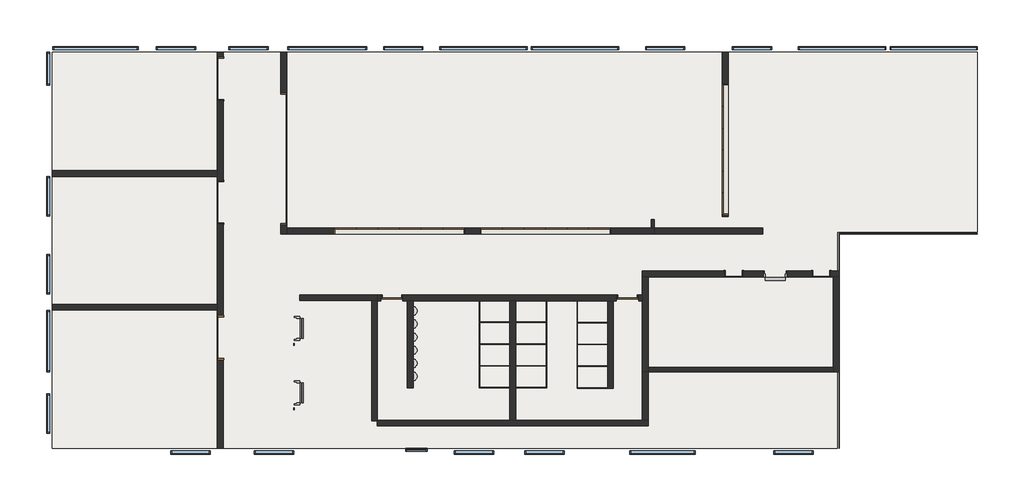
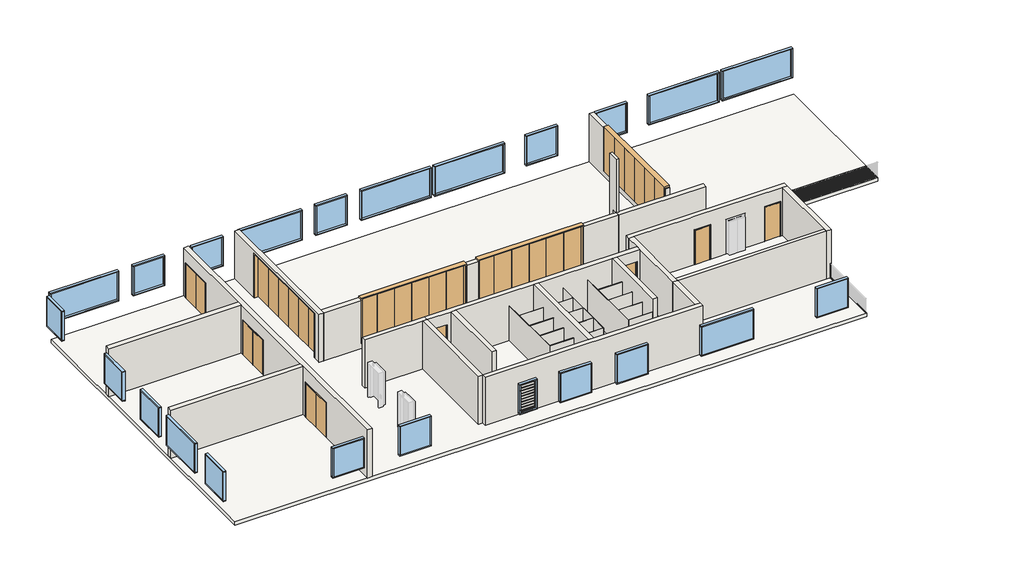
# One storey, part 1 of 2: 35 walls, 23 windows, 11 doors, 1 slab.
"""IFC4 building model written with IfcOpenShell, lengths in millimetres."""

from ifc_helpers import new_model, si_unit, frame, origin, place, context, project, spatial, polyline, outline, extrude, faceted_brep, transform, mapped, element, save
from components import bi_fold_dor_6_panel_6000_81c243c2, bi_fold_dor_6_panel_6000_958885f1, swing_double_metal_frame_double_2040_x_970x2_2b0cb67a, swing_metal_frame_single_dor_e555ebe5, swing_metal_frame_single_dor_ce4810a8, swing_metal_frame_single_dor_0861dc3d, window_fixed_1500mm_wide_9b338267, window_fixed_1800mm_wide_7e584eee, window_fixed_2800mm_wide_467ea3d1, window_fixed_3000mm_wide_e2b4e5f3, window_fixed_3600mm_wide_8deb48f9, window_fixed_3900_wide_c72f7c03, window_fixed_4000m_wide_275cc457, window_louvre_window_louvre_92f3ddc7

model = new_model("IFC4")

# Units and contexts
model_context = context("Model", 3, world=origin())
ifc_project = project(units=[si_unit("LENGTHUNIT", "METRE", prefix="MILLI")], contexts=[model_context])

# Site, building, storey
site = spatial("IfcSite", under=ifc_project)
building = spatial("IfcBuilding", under=site)
storey = spatial("IfcBuildingStorey", under=building, Name="1階", Elevation=29900.0)

# Doors
placement = place(None, origin())
bi_fold_dor_6_panel_6000_shape = bi_fold_dor_6_panel_6000_81c243c2(model_context)
element("IfcDoor", 1, ObjectType="Bi Fold_DOR : 6 Panel - 6000", at=placement, inside=storey, context=model_context, shape_type="MappedRepresentation", body=[
    mapped(bi_fold_dor_6_panel_6000_shape, transform((25206.7619997, 10265.005792, 30200.0), x_axis=(1.0, 0.0, 0.0), y_axis=(0.0, 1.0, 0.0), z_axis=(0.0, 0.0, 1.0))),
])
element("IfcDoor", 2, ObjectType="Bi Fold_DOR : 6 Panel - 6000", at=placement, inside=storey, context=model_context, shape_type="MappedRepresentation", body=[
    mapped(bi_fold_dor_6_panel_6000_shape, transform((33426.7619997, 13995.0213727, 30200.0), x_axis=(0.0, 1.0, 0.0), y_axis=(-1.0, 0.0, 0.0), z_axis=(0.0, 0.0, 1.0))),
])
bi_fold_dor_6_panel_6000_2_shape = bi_fold_dor_6_panel_6000_958885f1(model_context)
element("IfcDoor", 3, ObjectType="Bi Fold_DOR : 6 Panel - 6000", at=placement, inside=storey, context=model_context, shape_type="MappedRepresentation", body=[
    mapped(bi_fold_dor_6_panel_6000_2_shape, transform((18514.6062665, 10265.005792, 30200.0), x_axis=(-1.0, 0.0, 0.0), y_axis=(0.0, -1.0, 0.0), z_axis=(0.0, 0.0, 1.0))),
])
element("IfcDoor", 4, ObjectType="Bi Fold_DOR : 6 Panel - 6000", at=placement, inside=storey, context=model_context, shape_type="MappedRepresentation", body=[
    mapped(bi_fold_dor_6_panel_6000_2_shape, transform((13232.1904782, 13565.005792, 29900.0), x_axis=(0.0, 1.0, 0.0), y_axis=(-1.0, 0.0, 0.0), z_axis=(0.0, 0.0, 1.0))),
])
swing_double_metal_frame_double_2040_x_970x2_shape = swing_double_metal_frame_double_2040_x_970x2_2b0cb67a(model_context)
element("IfcDoor", 5, ObjectType="Swing_Double : Metal Frame Double - 2040 x 970x2", at=placement, inside=storey, context=model_context, shape_type="MappedRepresentation", body=[
    mapped(swing_double_metal_frame_double_2040_x_970x2_shape, transform((10319.6062665, 17444.0106864, 29900.0), x_axis=(0.0, 1.0, 0.0), y_axis=(-1.0, 0.0, 0.0), z_axis=(0.0, 0.0, 1.0))),
])
element("IfcDoor", 6, ObjectType="Swing_Double : Metal Frame Double - 2040 x 970x2", at=placement, inside=storey, context=model_context, shape_type="MappedRepresentation", body=[
    mapped(swing_double_metal_frame_double_2040_x_970x2_shape, transform((10319.6062665, 11781.5, 29900.0), x_axis=(0.0, 1.0, 0.0), y_axis=(-1.0, 0.0, 0.0), z_axis=(0.0, 0.0, 1.0))),
])
element("IfcDoor", 7, ObjectType="Swing_Double : Metal Frame Double - 2040 x 970x2", at=placement, inside=storey, context=model_context, shape_type="MappedRepresentation", body=[
    mapped(swing_double_metal_frame_double_2040_x_970x2_shape, transform((10319.6062665, 5585.5898177, 29900.0), x_axis=(0.0, 1.0, 0.0), y_axis=(-1.0, 0.0, 0.0), z_axis=(0.0, 0.0, 1.0))),
])
swing_metal_frame_single_dor_shape = swing_metal_frame_single_dor_e555ebe5(model_context)
element("IfcDoor", 8, ObjectType="Swing_Metal Frame_Single_DOR : 2040h x 820 (2110x920 STUD)", at=placement, inside=storey, context=model_context, shape_type="MappedRepresentation", body=[
    mapped(swing_metal_frame_single_dor_shape, transform((33812.4654784, 8295.005792, 29900.0), x_axis=(-1.0, 0.0, 0.0), y_axis=(0.0, -1.0, 0.0), z_axis=(0.0, 0.0, 1.0))),
])
element("IfcDoor", 9, ObjectType="Swing_Metal Frame_Single_DOR : 2040h x 820 (2110x920 STUD)", at=placement, inside=storey, context=model_context, shape_type="MappedRepresentation", body=[
    mapped(swing_metal_frame_single_dor_shape, transform((37812.4654784, 8295.005792, 29900.0), x_axis=(-1.0, 0.0, 0.0), y_axis=(0.0, -1.0, 0.0), z_axis=(0.0, 0.0, 1.0))),
])
swing_metal_frame_single_dor_2_shape = swing_metal_frame_single_dor_ce4810a8(model_context)
element("IfcDoor", 10, ObjectType="Swing_Metal Frame_Single_DOR : 2140h x 920 (2210x1010 BLK)", at=placement, inside=storey, context=model_context, shape_type="MappedRepresentation", body=[
    mapped(swing_metal_frame_single_dor_2_shape, transform((28957.1585166, 7200.0, 29900.0), x_axis=(-1.0, 0.0, 0.0), y_axis=(0.0, -1.0, 0.0), z_axis=(0.0, 0.0, 1.0))),
])
swing_metal_frame_single_dor_3_shape = swing_metal_frame_single_dor_0861dc3d(model_context)
element("IfcDoor", 11, ObjectType="Swing_Metal Frame_Single_DOR : 2140h x 920 (2210x1010 BLK)", at=placement, inside=storey, context=model_context, shape_type="MappedRepresentation", body=[
    mapped(swing_metal_frame_single_dor_3_shape, transform((18169.6062665, 7200.0, 29900.0), x_axis=(1.0, 0.0, 0.0), y_axis=(0.0, 1.0, 0.0), z_axis=(0.0, 0.0, 1.0))),
])

# Slab
element("IfcSlab", 12, ObjectType="Concept Floor_200mm", at=placement, inside=storey, context=model_context, shape_type="SweptSolid", body=[
    extrude(outline(polyline([(44965.0, 18440.0), (44965.0, 10130.005792), (38647.4654784, 10130.005792), (38647.4654784, 309.0898177), (2639.6057353, 309.0898177), (2639.6057353, 18440.0), (44965.0, 18440.0)])), frame((0.0, 0.0, 29700.0), z_axis=(0.0, 0.0, 1.0), x_axis=(1.0, 0.0, 0.0)), (0.0, 0.0, 1.0), 200.0),
])

# Walls
element("IfcWall", 13, ObjectType="Brickwork_Double_270mm", at=placement, inside=storey, context=model_context, shape_type="SweptSolid", body=[
    extrude(outline(polyline([(35151.7619997, 10130.005792), (30187.1585166, 10130.005792), (30187.1585166, 10400.005792), (35151.7619997, 10400.005792), (35151.7619997, 10130.005792)])), frame((0.0, 0.0, 29900.0), z_axis=(0.0, 0.0, 1.0), x_axis=(1.0, 0.0, 0.0)), (0.0, 0.0, 1.0), 2900.0),
])
element("IfcWall", 14, ObjectType="Brickwork_Double_270mm", at=placement, inside=storey, context=model_context, shape_type="Brep", body=[
    faceted_brep([(29622.1585166, 8430.005792, 32800.0), (38647.4654784, 8430.005792, 32800.0), (38647.4654784, 8430.005792, 29900.0), (38252.4654784, 8430.005792, 29900.0), (38252.4654784, 8430.005792, 31990.0), (37372.4654784, 8430.005792, 31990.0), (37372.4654784, 8430.005792, 29900.0), (36262.4654784, 8430.005792, 29900.0), (36262.4654784, 8430.005792, 32000.0), (35162.4654784, 8430.005792, 32000.0), (35162.4654784, 8430.005792, 29900.0), (34252.4654784, 8430.005792, 29900.0), (34252.4654784, 8430.005792, 31990.0), (33372.4654784, 8430.005792, 31990.0), (33372.4654784, 8430.005792, 29900.0), (29622.1585166, 8430.005792, 29900.0), (35032.4654784, 8430.005792, 30600.0), (35032.4654784, 8430.005792, 30800.0), (34932.4654784, 8430.005792, 30800.0), (34932.4654784, 8430.005792, 30600.0), (35762.4654784, 8430.005792, 32100.0), (35762.4654784, 8430.005792, 32300.0), (35662.4654784, 8430.005792, 32300.0), (35662.4654784, 8430.005792, 32100.0), (38647.4654784, 8160.005792, 32800.0), (38377.4654784, 8160.005792, 32800.0), (33332.1585166, 8160.005792, 32800.0), (33132.1585166, 8160.005792, 32800.0), (29892.1585166, 8160.005792, 32800.0), (29622.1585166, 8160.005792, 32800.0), (29622.1585166, 8160.005792, 29900.0), (29892.1585166, 8160.005792, 29900.0), (33372.4654784, 8160.005792, 29900.0), (33372.4654784, 8160.005792, 31990.0), (34252.4654784, 8160.005792, 31990.0), (34252.4654784, 8160.005792, 29900.0), (35162.4654784, 8160.005792, 29900.0), (35162.4654784, 8160.005792, 32000.0), (36262.4654784, 8160.005792, 32000.0), (36262.4654784, 8160.005792, 29900.0), (37372.4654784, 8160.005792, 29900.0), (37372.4654784, 8160.005792, 31990.0), (38252.4654784, 8160.005792, 31990.0), (38252.4654784, 8160.005792, 29900.0), (38377.4654784, 8160.005792, 29900.0), (38647.4654784, 8160.005792, 29900.0), (35032.4654784, 8410.005792, 30600.0), (34932.4654784, 8410.005792, 30600.0), (34932.4654784, 8410.005792, 30800.0), (35032.4654784, 8410.005792, 30800.0), (35762.4654784, 8410.005792, 32100.0), (35662.4654784, 8410.005792, 32100.0), (35662.4654784, 8410.005792, 32300.0), (35762.4654784, 8410.005792, 32300.0)], [[[0, 1, 2, 3, 4, 5, 6, 7, 8, 9, 10, 11, 12, 13, 14, 15], [16, 17, 18, 19], [20, 21, 22, 23]], [[24, 25, 26, 27, 28, 29, 30, 31, 32, 33, 34, 35, 36, 37, 38, 39, 40, 41, 42, 43, 44, 45]], [[30, 15, 14, 32, 31]], [[2, 45, 44, 43, 3]], [[10, 36, 35, 11]], [[39, 7, 6, 40]], [[1, 0, 29, 28, 27, 26, 25, 24]], [[0, 15, 30, 29]], [[2, 1, 24, 45]], [[9, 37, 36, 10]], [[38, 8, 7, 39]], [[37, 9, 8, 38]], [[46, 47, 48, 49]], [[46, 49, 17, 16]], [[49, 48, 18, 17]], [[48, 47, 19, 18]], [[47, 46, 16, 19]], [[50, 51, 52, 53]], [[50, 53, 21, 20]], [[53, 52, 22, 21]], [[52, 51, 23, 22]], [[51, 50, 20, 23]], [[13, 33, 32, 14]], [[33, 13, 12, 34]], [[34, 12, 11, 35]], [[5, 41, 40, 6]], [[41, 5, 4, 42]], [[42, 4, 3, 43]]]),
])
element("IfcWall", 15, ObjectType="Brickwork_Double_270mm", at=placement, inside=storey, context=model_context, shape_type="Brep", body=[
    faceted_brep([(29622.1585166, 8160.005792, 29900.0), (29622.1585166, 7335.0, 29900.0), (29622.1585166, 7065.0, 29900.0), (29622.1585166, 3816.2680774, 29900.0), (29622.1585166, 3816.2680774, 32800.0), (29622.1585166, 7065.0, 32800.0), (29622.1585166, 7335.0, 32800.0), (29622.1585166, 8160.005792, 32800.0), (29892.1585166, 8160.005792, 29900.0), (29892.1585166, 8160.005792, 32800.0), (29892.1585166, 4016.2680774, 32800.0), (29892.1585166, 3816.2680774, 32800.0), (29892.1585166, 3816.2680774, 29900.0), (29892.1585166, 4016.2680774, 29900.0)], [[[0, 1, 2, 3, 4, 5, 6, 7]], [[8, 9, 10, 11, 12, 13]], [[3, 2, 1, 0, 8, 13, 12]], [[7, 6, 5, 4, 11, 10, 9]], [[0, 7, 9, 8]], [[4, 3, 12, 11]]]),
])
element("IfcWall", 16, ObjectType="Brickwork_Double_270mm", at=placement, inside=storey, context=model_context, shape_type="Brep", body=[
    faceted_brep([(38377.4654784, 8160.005792, 29900.0), (38377.4654784, 4016.2680774, 29900.0), (38377.4654784, 3816.2680774, 29900.0), (38377.4654784, 3816.2680774, 32800.0), (38377.4654784, 4016.2680774, 32800.0), (38377.4654784, 8160.005792, 32800.0), (38647.4654784, 8160.005792, 29900.0), (38647.4654784, 8160.005792, 32800.0), (38647.4654784, 3816.2680774, 32800.0), (38647.4654784, 3816.2680774, 29900.0)], [[[0, 1, 2, 3, 4, 5]], [[6, 7, 8, 9]], [[2, 1, 0, 6, 9]], [[5, 4, 3, 8, 7]], [[0, 5, 7, 6]], [[3, 2, 9, 8]]]),
])
element("IfcWall", 17, ObjectType="Brickwork_Double_270mm", at=placement, inside=storey, context=model_context, shape_type="Brep", body=[
    faceted_brep([(10184.6062665, 4374.0898177, 31990.0), (10184.6062665, 4374.0898177, 29900.0), (10184.6062665, 309.0898177, 29900.0), (10184.6062665, 309.0898177, 32800.0), (10184.6062665, 6635.0, 32800.0), (10184.6062665, 6905.0, 32800.0), (10184.6062665, 12755.0213727, 32800.0), (10184.6062665, 13025.0213727, 32800.0), (10184.6062665, 18440.0, 32800.0), (10184.6062665, 18440.0, 29900.0), (10184.6062665, 18232.5106864, 29900.0), (10184.6062665, 18232.5106864, 31990.0), (10184.6062665, 16232.5106864, 31990.0), (10184.6062665, 16232.5106864, 29900.0), (10184.6062665, 13025.0213727, 29900.0), (10184.6062665, 12755.0213727, 29900.0), (10184.6062665, 12570.0, 29900.0), (10184.6062665, 12570.0, 31990.0), (10184.6062665, 10570.0, 31990.0), (10184.6062665, 10570.0, 29900.0), (10184.6062665, 6905.0, 29900.0), (10184.6062665, 6635.0, 29900.0), (10184.6062665, 6374.0898177, 29900.0), (10184.6062665, 6374.0898177, 31990.0), (10454.6062665, 309.0898177, 29900.0), (10454.6062665, 4374.0898177, 29900.0), (10454.6062665, 4374.0898177, 31990.0), (10454.6062665, 6374.0898177, 31990.0), (10454.6062665, 6374.0898177, 29900.0), (10454.6062665, 10570.0, 29900.0), (10454.6062665, 10570.0, 31990.0), (10454.6062665, 12570.0, 31990.0), (10454.6062665, 12570.0, 29900.0), (10454.6062665, 16232.5106864, 29900.0), (10454.6062665, 16232.5106864, 31990.0), (10454.6062665, 18232.5106864, 31990.0), (10454.6062665, 18232.5106864, 29900.0), (10454.6062665, 18440.0, 29900.0), (10454.6062665, 18440.0, 32800.0), (10454.6062665, 309.0898177, 32800.0)], [[[0, 1, 2, 3, 4, 5, 6, 7, 8, 9, 10, 11, 12, 13, 14, 15, 16, 17, 18, 19, 20, 21, 22, 23]], [[24, 25, 26, 27, 28, 29, 30, 31, 32, 33, 34, 35, 36, 37, 38, 39]], [[10, 9, 37, 36]], [[16, 15, 14, 13, 33, 32]], [[2, 1, 25, 24]], [[22, 21, 20, 19, 29, 28]], [[8, 7, 6, 5, 4, 3, 39, 38]], [[3, 2, 24, 39]], [[9, 8, 38, 37]], [[34, 33, 13, 12]], [[35, 34, 12, 11]], [[36, 35, 11, 10]], [[30, 29, 19, 18]], [[31, 30, 18, 17]], [[32, 31, 17, 16]], [[26, 25, 1, 0]], [[27, 26, 0, 23]], [[28, 27, 23, 22]]]),
])
element("IfcWall", 18, ObjectType="Brickwork_Double_270mm", at=placement, inside=storey, context=model_context, shape_type="SweptSolid", body=[
    extrude(outline(polyline([(10184.6062665, 6635.0), (2639.6057353, 6635.0), (2639.6057353, 6905.0), (10184.6062665, 6905.0), (10184.6062665, 6635.0)])), frame((0.0, 0.0, 29900.0), z_axis=(0.0, 0.0, 1.0), x_axis=(1.0, 0.0, 0.0)), (0.0, 0.0, 1.0), 2900.0),
])
element("IfcWall", 19, ObjectType="Brickwork_Double_270mm", at=placement, inside=storey, context=model_context, shape_type="SweptSolid", body=[
    extrude(outline(polyline([(10184.6062665, 12755.0213727), (2639.6057353, 12755.0213727), (2639.6057353, 13025.0213727), (10184.6062665, 13025.0213727), (10184.6062665, 12755.0213727)])), frame((0.0, 0.0, 29900.0), z_axis=(0.0, 0.0, 1.0), x_axis=(1.0, 0.0, 0.0)), (0.0, 0.0, 1.0), 2900.0),
])
element("IfcWall", 20, ObjectType="Brickwork_Double_270mm", at=placement, inside=storey, context=model_context, shape_type="Brep", body=[
    faceted_brep([(29622.1585166, 7065.0, 32800.0), (28307.1585166, 7065.0, 32800.0), (28037.1585166, 7065.0, 32800.0), (23834.0162455, 7065.0, 32800.0), (23564.0162455, 7065.0, 32800.0), (19139.6062665, 7065.0, 32800.0), (18869.6062665, 7065.0, 32800.0), (17494.6062665, 7065.0, 32800.0), (17494.6062665, 7065.0, 29900.0), (17659.6062665, 7065.0, 29900.0), (17659.6062665, 7065.0, 32110.0), (18679.6062665, 7065.0, 32110.0), (18679.6062665, 7065.0, 29900.0), (18869.6062665, 7065.0, 29900.0), (19139.6062665, 7065.0, 29900.0), (22169.7362732, 7065.0, 29900.0), (22187.7362732, 7065.0, 29900.0), (23564.0162455, 7065.0, 29900.0), (23834.0162455, 7065.0, 29900.0), (25242.8807277, 7065.0, 29900.0), (25260.8807277, 7065.0, 29900.0), (26642.8807277, 7065.0, 29900.0), (26660.8807277, 7065.0, 29900.0), (28037.1585166, 7065.0, 29900.0), (28307.1585166, 7065.0, 29900.0), (28447.1585166, 7065.0, 29900.0), (28447.1585166, 7065.0, 32110.0), (29467.1585166, 7065.0, 32110.0), (29467.1585166, 7065.0, 29900.0), (29622.1585166, 7065.0, 29900.0), (17494.6062665, 7335.0, 32800.0), (29622.1585166, 7335.0, 32800.0), (29622.1585166, 7335.0, 29900.0), (29467.1585166, 7335.0, 29900.0), (29467.1585166, 7335.0, 32110.0), (28447.1585166, 7335.0, 32110.0), (28447.1585166, 7335.0, 29900.0), (18679.6062665, 7335.0, 29900.0), (18679.6062665, 7335.0, 32110.0), (17659.6062665, 7335.0, 32110.0), (17659.6062665, 7335.0, 29900.0), (17494.6062665, 7335.0, 29900.0), (17494.6062665, 7085.0, 29900.0), (17494.6062665, 7085.0, 32800.0)], [[[0, 1, 2, 3, 4, 5, 6, 7, 8, 9, 10, 11, 12, 13, 14, 15, 16, 17, 18, 19, 20, 21, 22, 23, 24, 25, 26, 27, 28, 29]], [[30, 31, 32, 33, 34, 35, 36, 37, 38, 39, 40, 41]], [[8, 42, 41, 40, 9]], [[32, 29, 28, 33]], [[12, 37, 36, 25, 24, 23, 22, 21, 20, 19, 18, 17, 16, 15, 14, 13]], [[7, 6, 5, 4, 3, 2, 1, 0, 31, 30, 43]], [[8, 7, 43, 30, 41, 42]], [[0, 29, 32, 31]], [[11, 38, 37, 12]], [[38, 11, 10, 39]], [[39, 10, 9, 40]], [[35, 26, 25, 36]], [[26, 35, 34, 27]], [[27, 34, 33, 28]]]),
])
element("IfcWall", 21, ObjectType="Brickwork_Double_270mm", at=placement, inside=storey, context=model_context, shape_type="Brep", body=[
    faceted_brep([(17494.6062665, 1325.0, 29900.0), (29892.1585166, 1325.0, 29900.0), (29892.1585166, 1325.0, 32800.0), (17494.6062665, 1325.0, 32800.0), (17494.6062665, 1595.0, 29900.0), (17494.6062665, 1595.0, 32800.0), (23564.0162455, 1595.0, 32800.0), (23834.0162455, 1595.0, 32800.0), (29622.1585166, 1595.0, 32800.0), (29892.1585166, 1595.0, 32800.0), (29892.1585166, 1595.0, 29900.0), (29622.1585166, 1595.0, 29900.0), (23834.0162455, 1595.0, 29900.0), (23564.0162455, 1595.0, 29900.0), (17494.6062665, 1575.0, 29900.0), (17494.6062665, 1575.0, 32800.0)], [[[0, 1, 2, 3]], [[4, 5, 6, 7, 8, 9, 10, 11, 12, 13]], [[1, 0, 14, 4, 13, 12, 11, 10]], [[3, 2, 9, 8, 7, 6, 5, 15]], [[0, 3, 15, 5, 4, 14]], [[2, 1, 10, 9]]]),
])
element("IfcWall", 22, ObjectType="Brickwork_Double_270mm", at=placement, inside=storey, context=model_context, shape_type="SweptSolid", body=[
    extrude(outline(polyline([(29622.1585166, 1595.0), (29622.1585166, 3816.2680774), (29892.1585166, 3816.2680774), (29892.1585166, 1595.0), (29622.1585166, 1595.0)])), frame((0.0, 0.0, 29900.0), z_axis=(0.0, 0.0, 1.0), x_axis=(1.0, 0.0, 0.0)), (0.0, 0.0, 1.0), 2900.0),
])
element("IfcWall", 23, ObjectType="Brickwork_Double_270mm", at=placement, inside=storey, context=model_context, shape_type="Brep", body=[
    faceted_brep([(23564.0162455, 7065.0, 29900.0), (23564.0162455, 6092.0, 29900.0), (23564.0162455, 6074.0, 29900.0), (23564.0162455, 5092.0, 29900.0), (23564.0162455, 5074.0, 29900.0), (23564.0162455, 4092.0, 29900.0), (23564.0162455, 4074.0, 29900.0), (23564.0162455, 3092.0, 29900.0), (23564.0162455, 3074.0, 29900.0), (23564.0162455, 1595.0, 29900.0), (23564.0162455, 1595.0, 32800.0), (23564.0162455, 7065.0, 32800.0), (23834.0162455, 7065.0, 29900.0), (23834.0162455, 7065.0, 32800.0), (23834.0162455, 1595.0, 32800.0), (23834.0162455, 1595.0, 29900.0), (23834.0162455, 3074.0, 29900.0), (23834.0162455, 3092.0, 29900.0), (23834.0162455, 4074.0, 29900.0), (23834.0162455, 4092.0, 29900.0), (23834.0162455, 5074.0, 29900.0), (23834.0162455, 5092.0, 29900.0), (23834.0162455, 6074.0, 29900.0), (23834.0162455, 6092.0, 29900.0)], [[[0, 1, 2, 3, 4, 5, 6, 7, 8, 9, 10, 11]], [[12, 13, 14, 15, 16, 17, 18, 19, 20, 21, 22, 23]], [[9, 8, 7, 6, 5, 4, 3, 2, 1, 0, 12, 23, 22, 21, 20, 19, 18, 17, 16, 15]], [[11, 10, 14, 13]], [[10, 9, 15, 14]], [[0, 11, 13, 12]]]),
])
element("IfcWall", 24, ObjectType="Brickwork_Double_270mm", at=placement, inside=storey, context=model_context, shape_type="SweptSolid", body=[
    extrude(outline(polyline([(18869.6062665, 3065.0), (18869.6062665, 7065.0), (19139.6062665, 7065.0), (19139.6062665, 3065.0), (18869.6062665, 3065.0)])), frame((0.0, 0.0, 29900.0), z_axis=(0.0, 0.0, 1.0), x_axis=(1.0, 0.0, 0.0)), (0.0, 0.0, 1.0), 2900.0),
])
element("IfcWall", 25, ObjectType="Brickwork_Double_270mm", at=placement, inside=storey, context=model_context, shape_type="Brep", body=[
    faceted_brep([(28037.1585166, 7065.0, 29900.0), (28037.1585166, 6074.0, 29900.0), (28037.1585166, 6056.0, 29900.0), (28037.1585166, 5074.0, 29900.0), (28037.1585166, 5056.0, 29900.0), (28037.1585166, 4074.0, 29900.0), (28037.1585166, 4056.0, 29900.0), (28037.1585166, 3074.0, 29900.0), (28037.1585166, 3056.0, 29900.0), (28037.1585166, 3056.0, 32000.0), (28037.1585166, 3056.0, 32800.0), (28037.1585166, 7065.0, 32800.0), (28307.1585166, 7065.0, 29900.0), (28307.1585166, 7065.0, 32800.0), (28307.1585166, 3056.0, 32800.0), (28307.1585166, 3056.0, 29900.0)], [[[0, 1, 2, 3, 4, 5, 6, 7, 8, 9, 10, 11]], [[12, 13, 14, 15]], [[8, 7, 6, 5, 4, 3, 2, 1, 0, 12, 15]], [[11, 10, 14, 13]], [[0, 11, 13, 12]], [[10, 9, 8, 15, 14]]]),
])
element("IfcWall", 26, ObjectType="Brickwork_Double_270mm", at=placement, inside=storey, context=model_context, shape_type="SweptSolid", body=[
    extrude(outline(polyline([(18440.0, 29900.0), (10930.0213727, 29900.0), (10930.0213727, 32800.0), (10995.0213727, 32800.0), (10995.0213727, 30200.0), (16995.0213727, 30200.0), (16995.0213727, 32800.0), (18440.0, 32800.0), (18440.0, 29900.0)])), frame((33291.7619997, 0.0, 0.0), z_axis=(1.0, 0.0, 0.0), x_axis=(0.0, 1.0, 0.0)), (0.0, 0.0, 1.0), 270.0),
])
element("IfcWall", 27, ObjectType="Brickwork_Double_270mm", at=placement, inside=storey, context=model_context, shape_type="Brep", body=[
    faceted_brep([(30187.1585166, 10400.005792, 29900.0), (30037.1585166, 10400.005792, 29900.0), (13367.1904782, 10400.005792, 29900.0), (13367.1904782, 10400.005792, 32800.0), (15514.6062665, 10400.005792, 32800.0), (15514.6062665, 10400.005792, 30200.0), (21514.6062665, 10400.005792, 30200.0), (21514.6062665, 10400.005792, 32800.0), (22206.7619997, 10400.005792, 32800.0), (22206.7619997, 10400.005792, 30200.0), (28206.7619997, 10400.005792, 30200.0), (28206.7619997, 10400.005792, 32800.0), (30187.1585166, 10400.005792, 32800.0), (13367.1904782, 10130.005792, 29900.0), (30187.1585166, 10130.005792, 29900.0), (30187.1585166, 10130.005792, 32800.0), (28206.7619997, 10130.005792, 32800.0), (28206.7619997, 10130.005792, 30200.0), (22206.7619997, 10130.005792, 30200.0), (22206.7619997, 10130.005792, 32800.0), (21514.6062665, 10130.005792, 32800.0), (21514.6062665, 10130.005792, 30200.0), (15514.6062665, 10130.005792, 30200.0), (15514.6062665, 10130.005792, 32800.0), (13367.1904782, 10130.005792, 32800.0)], [[[0, 1, 2, 3, 4, 5, 6, 7, 8, 9, 10, 11, 12]], [[13, 14, 15, 16, 17, 18, 19, 20, 21, 22, 23, 24]], [[2, 1, 0, 14, 13]], [[4, 3, 24, 23]], [[7, 20, 19, 8]], [[15, 12, 11, 16]], [[5, 4, 23, 22]], [[7, 6, 21, 20]], [[6, 5, 22, 21]], [[10, 17, 16, 11]], [[18, 9, 8, 19]], [[17, 10, 9, 18]], [[3, 2, 13, 24]], [[0, 12, 15, 14]]]),
])
element("IfcWall", 28, ObjectType="Brickwork_Double_270mm", at=placement, inside=storey, context=model_context, shape_type="Brep", body=[
    faceted_brep([(13097.1904782, 10130.005792, 32800.0), (13097.1904782, 18440.0, 32800.0), (13097.1904782, 18440.0, 29900.0), (13097.1904782, 16565.005792, 29900.0), (13097.1904782, 16565.005792, 32600.0), (13097.1904782, 10565.005792, 32600.0), (13097.1904782, 10565.005792, 29900.0), (13097.1904782, 10130.005792, 29900.0), (13367.1904782, 18440.0, 32800.0), (13367.1904782, 10400.005792, 32800.0), (13367.1904782, 10130.005792, 32800.0), (13367.1904782, 10130.005792, 29900.0), (13367.1904782, 10400.005792, 29900.0), (13367.1904782, 10565.005792, 29900.0), (13367.1904782, 10565.005792, 32600.0), (13367.1904782, 16565.005792, 32600.0), (13367.1904782, 16565.005792, 29900.0), (13367.1904782, 18440.0, 29900.0)], [[[0, 1, 2, 3, 4, 5, 6, 7]], [[8, 9, 10, 11, 12, 13, 14, 15, 16, 17]], [[2, 17, 16, 3]], [[11, 7, 6, 13, 12]], [[1, 0, 10, 9, 8]], [[2, 1, 8, 17]], [[0, 7, 11, 10]], [[15, 4, 3, 16]], [[4, 15, 14, 5]], [[5, 14, 13, 6]]]),
])
element("IfcWall", 29, ObjectType="C1 - Concrete Type 2", at=placement, inside=storey, context=model_context, shape_type="SweptSolid", body=[
    extrude(outline(polyline([(29892.1585166, 4016.2680774), (38377.4654784, 4016.2680774), (38377.4654784, 3816.2680774), (29892.1585166, 3816.2680774), (29892.1585166, 4016.2680774)])), frame((0.0, 0.0, 29900.0), z_axis=(0.0, 0.0, 1.0), x_axis=(1.0, 0.0, 0.0)), (0.0, 0.0, 1.0), 2900.0),
])
element("IfcWall", 30, ObjectType="C1 - Concrete Type 3 - 250mm", at=placement, inside=storey, context=model_context, shape_type="Brep", body=[
    faceted_brep([(13944.6062665, 7085.0, 29900.0), (17244.6062665, 7085.0, 29900.0), (17494.6062665, 7085.0, 29900.0), (17494.6062665, 7085.0, 32800.0), (17244.6062665, 7085.0, 32800.0), (16594.6062665, 7085.0, 32800.0), (16344.6062665, 7085.0, 32800.0), (13944.6062665, 7085.0, 32800.0), (13944.6062665, 7335.0, 29900.0), (13944.6062665, 7335.0, 32800.0), (17494.6062665, 7335.0, 32800.0), (17494.6062665, 7335.0, 29900.0)], [[[0, 1, 2, 3, 4, 5, 6, 7]], [[8, 9, 10, 11]], [[2, 1, 0, 8, 11]], [[7, 6, 5, 4, 3, 10, 9]], [[0, 7, 9, 8]], [[3, 2, 11, 10]]]),
])
element("IfcWall", 31, ObjectType="C1 - Concrete Type 3 - 250mm", at=placement, inside=storey, context=model_context, shape_type="Brep", body=[
    faceted_brep([(17494.6062665, 1575.0, 29900.0), (17494.6062665, 1595.0, 29900.0), (17494.6062665, 7065.0, 29900.0), (17494.6062665, 7085.0, 29900.0), (17494.6062665, 7085.0, 32800.0), (17494.6062665, 7065.0, 32800.0), (17494.6062665, 1595.0, 32800.0), (17494.6062665, 1575.0, 32800.0), (17244.6062665, 1575.0, 29900.0), (17244.6062665, 1575.0, 32800.0), (17244.6062665, 7085.0, 32800.0), (17244.6062665, 7085.0, 29900.0)], [[[0, 1, 2, 3, 4, 5, 6, 7]], [[8, 9, 10, 11]], [[3, 2, 1, 0, 8, 11]], [[7, 6, 5, 4, 10, 9]], [[0, 7, 9, 8]], [[4, 3, 11, 10]]]),
])
element("IfcWall", 32, ObjectType="C5 - Concrete Type 5 150mm", at=placement, inside=storey, context=model_context, shape_type="Brep", body=[
    faceted_brep([(30037.1585166, 10780.0213727, 36200.0), (30037.1585166, 10780.0213727, 32800.0), (30037.1585166, 10780.0213727, 29900.0), (30037.1585166, 10400.005792, 29900.0), (30037.1585166, 10400.005792, 33000.0), (30037.1585166, 10130.005792, 33000.0), (30037.1585166, 10130.005792, 36200.0), (30187.1585166, 10780.0213727, 29900.0), (30187.1585166, 10780.0213727, 36200.0), (30187.1585166, 10130.005792, 36200.0), (30187.1585166, 10130.005792, 35600.0), (30187.1585166, 10130.005792, 33000.0), (30187.1585166, 10280.005792, 33000.0), (30187.1585166, 10400.005792, 33000.0), (30187.1585166, 10400.005792, 32800.0), (30187.1585166, 10400.005792, 29900.0)], [[[0, 1, 2, 3, 4, 5, 6]], [[7, 8, 9, 10, 11, 12, 13, 14, 15]], [[3, 2, 7, 15]], [[0, 6, 9, 8]], [[0, 8, 7, 2, 1]], [[11, 5, 4, 13, 12]], [[4, 3, 15, 14, 13]], [[5, 11, 10, 9, 6]]]),
])
element("IfcWall", 33, ObjectType="Toilet Partition_18mm", at=placement, inside=storey, context=model_context, shape_type="SweptSolid", body=[
    extrude(outline(polyline([(23564.0162455, 5074.0), (22187.7362732, 5074.0), (22187.7362732, 5092.0), (23564.0162455, 5092.0), (23564.0162455, 5074.0)])), frame((0.0, 0.0, 29900.0), z_axis=(0.0, 0.0, 1.0), x_axis=(1.0, 0.0, 0.0)), (0.0, 0.0, 1.0), 2100.0),
])
element("IfcWall", 34, ObjectType="Toilet Partition_18mm", at=placement, inside=storey, context=model_context, shape_type="SweptSolid", body=[
    extrude(outline(polyline([(23564.0162455, 4074.0), (22187.7362732, 4074.0), (22187.7362732, 4092.0), (23564.0162455, 4092.0), (23564.0162455, 4074.0)])), frame((0.0, 0.0, 29900.0), z_axis=(0.0, 0.0, 1.0), x_axis=(1.0, 0.0, 0.0)), (0.0, 0.0, 1.0), 2100.0),
])
element("IfcWall", 35, ObjectType="Toilet Partition_18mm", at=placement, inside=storey, context=model_context, shape_type="SweptSolid", body=[
    extrude(outline(polyline([(23564.0162455, 3074.0), (22187.7362732, 3074.0), (22187.7362732, 3092.0), (23564.0162455, 3092.0), (23564.0162455, 3074.0)])), frame((0.0, 0.0, 29900.0), z_axis=(0.0, 0.0, 1.0), x_axis=(1.0, 0.0, 0.0)), (0.0, 0.0, 1.0), 2100.0),
])
element("IfcWall", 36, ObjectType="Toilet Partition_18mm", at=placement, inside=storey, context=model_context, shape_type="SweptSolid", body=[
    extrude(outline(polyline([(23564.0162455, 6074.0), (22187.7362732, 6074.0), (22187.7362732, 6092.0), (23564.0162455, 6092.0), (23564.0162455, 6074.0)])), frame((0.0, 0.0, 29900.0), z_axis=(0.0, 0.0, 1.0), x_axis=(1.0, 0.0, 0.0)), (0.0, 0.0, 1.0), 2100.0),
])
element("IfcWall", 37, ObjectType="Toilet Partition_18mm", at=placement, inside=storey, context=model_context, shape_type="SweptSolid", body=[
    extrude(outline(polyline([(25234.0162455, 6074.0), (23834.0162455, 6074.0), (23834.0162455, 6092.0), (25234.0162455, 6092.0), (25234.0162455, 6074.0)])), frame((0.0, 0.0, 29900.0), z_axis=(0.0, 0.0, 1.0), x_axis=(1.0, 0.0, 0.0)), (0.0, 0.0, 1.0), 2100.0),
])
element("IfcWall", 38, ObjectType="Toilet Partition_18mm", at=placement, inside=storey, context=model_context, shape_type="SweptSolid", body=[
    extrude(outline(polyline([(25234.0162455, 5074.0), (23834.0162455, 5074.0), (23834.0162455, 5092.0), (25234.0162455, 5092.0), (25234.0162455, 5074.0)])), frame((0.0, 0.0, 29900.0), z_axis=(0.0, 0.0, 1.0), x_axis=(1.0, 0.0, 0.0)), (0.0, 0.0, 1.0), 2100.0),
])
element("IfcWall", 39, ObjectType="Toilet Partition_18mm", at=placement, inside=storey, context=model_context, shape_type="SweptSolid", body=[
    extrude(outline(polyline([(25234.0162455, 4074.0), (23834.0162455, 4074.0), (23834.0162455, 4092.0), (25234.0162455, 4092.0), (25234.0162455, 4074.0)])), frame((0.0, 0.0, 29900.0), z_axis=(0.0, 0.0, 1.0), x_axis=(1.0, 0.0, 0.0)), (0.0, 0.0, 1.0), 2100.0),
])
element("IfcWall", 40, ObjectType="Toilet Partition_18mm", at=placement, inside=storey, context=model_context, shape_type="SweptSolid", body=[
    extrude(outline(polyline([(25234.0162455, 3074.0), (23834.0162455, 3074.0), (23834.0162455, 3092.0), (25234.0162455, 3092.0), (25234.0162455, 3074.0)])), frame((0.0, 0.0, 29900.0), z_axis=(0.0, 0.0, 1.0), x_axis=(1.0, 0.0, 0.0)), (0.0, 0.0, 1.0), 2100.0),
])
element("IfcWall", 41, ObjectType="Toilet Partition_18mm", at=placement, inside=storey, context=model_context, shape_type="SweptSolid", body=[
    extrude(outline(polyline([(26660.8807277, 6074.0), (28037.1585166, 6074.0), (28037.1585166, 6056.0), (26660.8807277, 6056.0), (26660.8807277, 6074.0)])), frame((0.0, 0.0, 29900.0), z_axis=(0.0, 0.0, 1.0), x_axis=(1.0, 0.0, 0.0)), (0.0, 0.0, 1.0), 2100.0),
])
element("IfcWall", 42, ObjectType="Toilet Partition_18mm", at=placement, inside=storey, context=model_context, shape_type="SweptSolid", body=[
    extrude(outline(polyline([(26660.8807277, 5074.0), (28037.1585166, 5074.0), (28037.1585166, 5056.0), (26660.8807277, 5056.0), (26660.8807277, 5074.0)])), frame((0.0, 0.0, 29900.0), z_axis=(0.0, 0.0, 1.0), x_axis=(1.0, 0.0, 0.0)), (0.0, 0.0, 1.0), 2100.0),
])
element("IfcWall", 43, ObjectType="Toilet Partition_18mm", at=placement, inside=storey, context=model_context, shape_type="SweptSolid", body=[
    extrude(outline(polyline([(26660.8807277, 4074.0), (28037.1585166, 4074.0), (28037.1585166, 4056.0), (26660.8807277, 4056.0), (26660.8807277, 4074.0)])), frame((0.0, 0.0, 29900.0), z_axis=(0.0, 0.0, 1.0), x_axis=(1.0, 0.0, 0.0)), (0.0, 0.0, 1.0), 2100.0),
])
element("IfcWall", 44, ObjectType="Toilet Partition_18mm", at=placement, inside=storey, context=model_context, shape_type="SweptSolid", body=[
    extrude(outline(polyline([(26660.8807277, 3074.0), (28037.1585166, 3074.0), (28037.1585166, 3056.0), (26660.8807277, 3056.0), (26660.8807277, 3074.0)])), frame((0.0, 0.0, 29900.0), z_axis=(0.0, 0.0, 1.0), x_axis=(1.0, 0.0, 0.0)), (0.0, 0.0, 1.0), 2100.0),
])
element("IfcWall", 45, ObjectType="Toilet Partition_18mm", at=placement, inside=storey, context=model_context, shape_type="Brep", body=[
    faceted_brep([(26660.8807277, 3056.0, 29900.0), (26660.8807277, 3074.0, 29900.0), (26660.8807277, 4056.0, 29900.0), (26660.8807277, 4074.0, 29900.0), (26660.8807277, 5056.0, 29900.0), (26660.8807277, 5074.0, 29900.0), (26660.8807277, 6056.0, 29900.0), (26660.8807277, 6074.0, 29900.0), (26660.8807277, 7065.0, 29900.0), (26660.8807277, 7065.0, 32000.0), (26660.8807277, 6074.0, 32000.0), (26660.8807277, 6056.0, 32000.0), (26660.8807277, 5074.0, 32000.0), (26660.8807277, 5056.0, 32000.0), (26660.8807277, 4074.0, 32000.0), (26660.8807277, 4056.0, 32000.0), (26660.8807277, 3074.0, 32000.0), (26660.8807277, 3056.0, 32000.0), (26642.8807277, 3056.0, 29900.0), (26642.8807277, 3056.0, 32000.0), (26642.8807277, 7065.0, 32000.0), (26642.8807277, 7065.0, 29900.0)], [[[0, 1, 2, 3, 4, 5, 6, 7, 8, 9, 10, 11, 12, 13, 14, 15, 16, 17]], [[18, 19, 20, 21]], [[8, 7, 6, 5, 4, 3, 2, 1, 0, 18, 21]], [[17, 16, 15, 14, 13, 12, 11, 10, 9, 20, 19]], [[9, 8, 21, 20]], [[0, 17, 19, 18]]]),
])
element("IfcWall", 46, ObjectType="Toilet Partition_18mm", at=placement, inside=storey, context=model_context, shape_type="SweptSolid", body=[
    extrude(outline(polyline([(25260.8807277, 7065.0), (25260.8807277, 3065.0), (25242.8807277, 3065.0), (25242.8807277, 7065.0), (25260.8807277, 7065.0)])), frame((0.0, 0.0, 29900.0), z_axis=(0.0, 0.0, 1.0), x_axis=(1.0, 0.0, 0.0)), (0.0, 0.0, 1.0), 2100.0),
])
element("IfcWall", 47, ObjectType="Toilet Partition_18mm", at=placement, inside=storey, context=model_context, shape_type="Brep", body=[
    faceted_brep([(22187.7362732, 3065.0, 29900.0), (22187.7362732, 3074.0, 29900.0), (22187.7362732, 3092.0, 29900.0), (22187.7362732, 4074.0, 29900.0), (22187.7362732, 4092.0, 29900.0), (22187.7362732, 5074.0, 29900.0), (22187.7362732, 5092.0, 29900.0), (22187.7362732, 6074.0, 29900.0), (22187.7362732, 6092.0, 29900.0), (22187.7362732, 7065.0, 29900.0), (22187.7362732, 7065.0, 32000.0), (22187.7362732, 6092.0, 32000.0), (22187.7362732, 6074.0, 32000.0), (22187.7362732, 5092.0, 32000.0), (22187.7362732, 5074.0, 32000.0), (22187.7362732, 4092.0, 32000.0), (22187.7362732, 4074.0, 32000.0), (22187.7362732, 3092.0, 32000.0), (22187.7362732, 3074.0, 32000.0), (22187.7362732, 3065.0, 32000.0), (22169.7362732, 3065.0, 29900.0), (22169.7362732, 3065.0, 32000.0), (22169.7362732, 7065.0, 32000.0), (22169.7362732, 7065.0, 29900.0)], [[[0, 1, 2, 3, 4, 5, 6, 7, 8, 9, 10, 11, 12, 13, 14, 15, 16, 17, 18, 19]], [[20, 21, 22, 23]], [[9, 8, 7, 6, 5, 4, 3, 2, 1, 0, 20, 23]], [[19, 18, 17, 16, 15, 14, 13, 12, 11, 10, 22, 21]], [[0, 19, 21, 20]], [[10, 9, 23, 22]]]),
])

# Windows
window_fixed_1500mm_wide_shape = window_fixed_1500mm_wide_9b338267(model_context)
element("IfcWindow", 48, ObjectType="Window_Fixed : 1500mm Wide", at=placement, inside=storey, context=model_context, shape_type="MappedRepresentation", body=[
    mapped(window_fixed_1500mm_wide_shape, transform((2504.6057353, 17690.0, 30550.0), x_axis=(0.0, 1.0, 0.0), y_axis=(-1.0, 0.0, 0.0), z_axis=(0.0, 0.0, 1.0))),
])
window_fixed_1800mm_wide_shape = window_fixed_1800mm_wide_7e584eee(model_context)
element("IfcWindow", 49, ObjectType="Window_Fixed : 1800mm Wide", at=placement, inside=storey, context=model_context, shape_type="MappedRepresentation", body=[
    mapped(window_fixed_1800mm_wide_shape, transform((30676.5410012, 18575.0, 30550.0), x_axis=(1.0, 0.0, 0.0), y_axis=(0.0, 1.0, 0.0), z_axis=(0.0, 0.0, 1.0))),
])
element("IfcWindow", 50, ObjectType="Window_Fixed : 1800mm Wide", at=placement, inside=storey, context=model_context, shape_type="MappedRepresentation", body=[
    mapped(window_fixed_1800mm_wide_shape, transform((34653.2204541, 18575.0, 30550.0), x_axis=(1.0, 0.0, 0.0), y_axis=(0.0, 1.0, 0.0), z_axis=(0.0, 0.0, 1.0))),
])
element("IfcWindow", 51, ObjectType="Window_Fixed : 1800mm Wide", at=placement, inside=storey, context=model_context, shape_type="MappedRepresentation", body=[
    mapped(window_fixed_1800mm_wide_shape, transform((18690.8983724, 18575.0, 30550.0), x_axis=(1.0, 0.0, 0.0), y_axis=(0.0, 1.0, 0.0), z_axis=(0.0, 0.0, 1.0))),
])
element("IfcWindow", 52, ObjectType="Window_Fixed : 1800mm Wide", at=placement, inside=storey, context=model_context, shape_type="MappedRepresentation", body=[
    mapped(window_fixed_1800mm_wide_shape, transform((2504.6057353, 11850.7680774, 30550.0), x_axis=(0.0, 1.0, 0.0), y_axis=(-1.0, 0.0, 0.0), z_axis=(0.0, 0.0, 1.0))),
])
element("IfcWindow", 53, ObjectType="Window_Fixed : 1800mm Wide", at=placement, inside=storey, context=model_context, shape_type="MappedRepresentation", body=[
    mapped(window_fixed_1800mm_wide_shape, transform((2504.6057353, 8285.3166994, 30550.0), x_axis=(0.0, 1.0, 0.0), y_axis=(-1.0, 0.0, 0.0), z_axis=(0.0, 0.0, 1.0))),
])
element("IfcWindow", 54, ObjectType="Window_Fixed : 1800mm Wide", at=placement, inside=storey, context=model_context, shape_type="MappedRepresentation", body=[
    mapped(window_fixed_1800mm_wide_shape, transform((2504.6057353, 1890.6340387, 30550.0), x_axis=(0.0, 1.0, 0.0), y_axis=(-1.0, 0.0, 0.0), z_axis=(0.0, 0.0, 1.0))),
])
element("IfcWindow", 55, ObjectType="Window_Fixed : 1800mm Wide", at=placement, inside=storey, context=model_context, shape_type="MappedRepresentation", body=[
    mapped(window_fixed_1800mm_wide_shape, transform((8963.4954006, 174.0898177, 30550.0), x_axis=(-1.0, 0.0, 0.0), y_axis=(0.0, -1.0, 0.0), z_axis=(0.0, 0.0, 1.0))),
])
element("IfcWindow", 56, ObjectType="Window_Fixed : 1800mm Wide", at=placement, inside=storey, context=model_context, shape_type="MappedRepresentation", body=[
    mapped(window_fixed_1800mm_wide_shape, transform((12770.0, 174.0898177, 30550.0), x_axis=(-1.0, 0.0, 0.0), y_axis=(0.0, -1.0, 0.0), z_axis=(0.0, 0.0, 1.0))),
])
element("IfcWindow", 57, ObjectType="Window_Fixed : 1800mm Wide", at=placement, inside=storey, context=model_context, shape_type="MappedRepresentation", body=[
    mapped(window_fixed_1800mm_wide_shape, transform((21929.6062665, 174.0898177, 30550.0), x_axis=(-1.0, 0.0, 0.0), y_axis=(0.0, -1.0, 0.0), z_axis=(0.0, 0.0, 1.0))),
])
element("IfcWindow", 58, ObjectType="Window_Fixed : 1800mm Wide", at=placement, inside=storey, context=model_context, shape_type="MappedRepresentation", body=[
    mapped(window_fixed_1800mm_wide_shape, transform((25147.200582, 174.0898177, 30550.0), x_axis=(-1.0, 0.0, 0.0), y_axis=(0.0, -1.0, 0.0), z_axis=(0.0, 0.0, 1.0))),
])
element("IfcWindow", 59, ObjectType="Window_Fixed : 1800mm Wide", at=placement, inside=storey, context=model_context, shape_type="MappedRepresentation", body=[
    mapped(window_fixed_1800mm_wide_shape, transform((36547.200582, 174.0898177, 30550.0), x_axis=(-1.0, 0.0, 0.0), y_axis=(0.0, -1.0, 0.0), z_axis=(0.0, 0.0, 1.0))),
])
element("IfcWindow", 60, ObjectType="Window_Fixed : 1800mm Wide", at=placement, inside=storey, context=model_context, shape_type="MappedRepresentation", body=[
    mapped(window_fixed_1800mm_wide_shape, transform((11617.1904782, 18575.0, 30550.0), x_axis=(1.0, 0.0, 0.0), y_axis=(0.0, 1.0, 0.0), z_axis=(0.0, 0.0, 1.0))),
])
element("IfcWindow", 61, ObjectType="Window_Fixed : 1800mm Wide", at=placement, inside=storey, context=model_context, shape_type="MappedRepresentation", body=[
    mapped(window_fixed_1800mm_wide_shape, transform((8289.6645991, 18575.0, 30550.0), x_axis=(1.0, 0.0, 0.0), y_axis=(0.0, 1.0, 0.0), z_axis=(0.0, 0.0, 1.0))),
])
window_fixed_2800mm_wide_shape = window_fixed_2800mm_wide_467ea3d1(model_context)
element("IfcWindow", 62, ObjectType="Window_Fixed : 2800mm Wide", at=placement, inside=storey, context=model_context, shape_type="MappedRepresentation", body=[
    mapped(window_fixed_2800mm_wide_shape, transform((2504.6057353, 5216.2680774, 30550.0), x_axis=(0.0, 1.0, 0.0), y_axis=(-1.0, 0.0, 0.0), z_axis=(0.0, 0.0, 1.0))),
])
window_fixed_3000mm_wide_shape = window_fixed_3000mm_wide_e2b4e5f3(model_context)
element("IfcWindow", 63, ObjectType="Window_Fixed : 3000mm Wide", at=placement, inside=storey, context=model_context, shape_type="MappedRepresentation", body=[
    mapped(window_fixed_3000mm_wide_shape, transform((30556.5410012, 174.0898177, 30550.0), x_axis=(-1.0, 0.0, 0.0), y_axis=(0.0, -1.0, 0.0), z_axis=(0.0, 0.0, 1.0))),
])
window_fixed_3600mm_wide_shape = window_fixed_3600mm_wide_8deb48f9(model_context)
element("IfcWindow", 64, ObjectType="Window_Fixed : 3600mm Wide", at=placement, inside=storey, context=model_context, shape_type="MappedRepresentation", body=[
    mapped(window_fixed_3600mm_wide_shape, transform((15217.1904782, 18575.0, 30550.0), x_axis=(1.0, 0.0, 0.0), y_axis=(0.0, 1.0, 0.0), z_axis=(0.0, 0.0, 1.0))),
])
window_fixed_3900_wide_shape = window_fixed_3900_wide_c72f7c03(model_context)
element("IfcWindow", 65, ObjectType="Window_Fixed : 3900 Wide", at=placement, inside=storey, context=model_context, shape_type="MappedRepresentation", body=[
    mapped(window_fixed_3900_wide_shape, transform((4604.6645991, 18575.0, 30550.0), x_axis=(1.0, 0.0, 0.0), y_axis=(0.0, 1.0, 0.0), z_axis=(0.0, 0.0, 1.0))),
])
window_fixed_4000m_wide_shape = window_fixed_4000m_wide_275cc457(model_context)
element("IfcWindow", 66, ObjectType="Window_Fixed : 4000m wide", at=placement, inside=storey, context=model_context, shape_type="MappedRepresentation", body=[
    mapped(window_fixed_4000m_wide_shape, transform((42965.0, 18575.0, 30550.0), x_axis=(1.0, 0.0, 0.0), y_axis=(0.0, 1.0, 0.0), z_axis=(0.0, 0.0, 1.0))),
])
element("IfcWindow", 67, ObjectType="Window_Fixed : 4000m wide", at=placement, inside=storey, context=model_context, shape_type="MappedRepresentation", body=[
    mapped(window_fixed_4000m_wide_shape, transform((38776.5601806, 18575.0, 30550.0), x_axis=(1.0, 0.0, 0.0), y_axis=(0.0, 1.0, 0.0), z_axis=(0.0, 0.0, 1.0))),
])
element("IfcWindow", 68, ObjectType="Window_Fixed : 4000m wide", at=placement, inside=storey, context=model_context, shape_type="MappedRepresentation", body=[
    mapped(window_fixed_4000m_wide_shape, transform((26553.2012748, 18575.0, 30550.0), x_axis=(1.0, 0.0, 0.0), y_axis=(0.0, 1.0, 0.0), z_axis=(0.0, 0.0, 1.0))),
])
element("IfcWindow", 69, ObjectType="Window_Fixed : 4000m wide", at=placement, inside=storey, context=model_context, shape_type="MappedRepresentation", body=[
    mapped(window_fixed_4000m_wide_shape, transform((22364.6062665, 18575.0, 30550.0), x_axis=(1.0, 0.0, 0.0), y_axis=(0.0, 1.0, 0.0), z_axis=(0.0, 0.0, 1.0))),
])
window_louvre_window_louvre_shape = window_louvre_window_louvre_92f3ddc7(model_context)
element("IfcWindow", 70, ObjectType="Window_Louvre : Window_Louvre", at=placement, inside=storey, context=model_context, shape_type="MappedRepresentation", body=[
    mapped(window_louvre_window_louvre_shape, transform((19294.6062665, 174.0898177, 30200.0), x_axis=(-1.0, 0.0, 0.0), y_axis=(0.0, -1.0, 0.0), z_axis=(0.0, 0.0, 1.0))),
])

save(model, "model.ifc")
